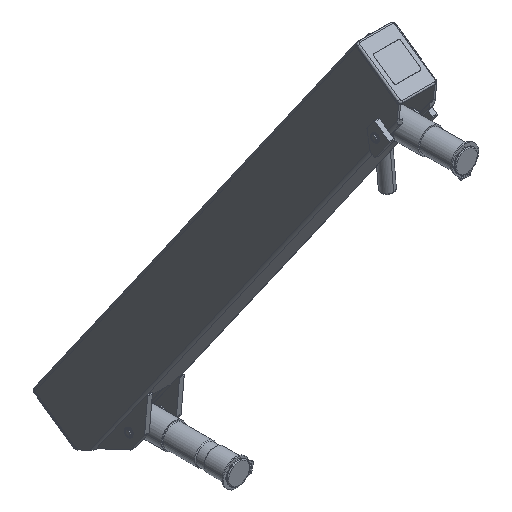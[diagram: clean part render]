
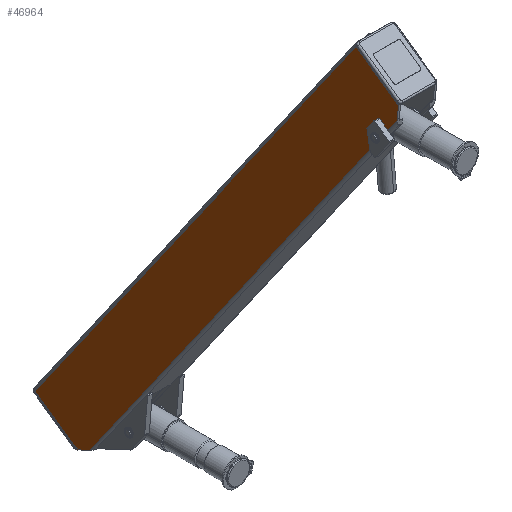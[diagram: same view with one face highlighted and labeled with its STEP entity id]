
A CAD part, isometric view. The second image highlights one B-rep face of the part: STEP entity #46964.
In plain terms, the highlighted planar face has unit normal (-1, 0, 0).
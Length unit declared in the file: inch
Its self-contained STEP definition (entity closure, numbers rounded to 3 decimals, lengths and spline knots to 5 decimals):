
#125 = CARTESIAN_POINT ( 'NONE',  ( 0., 0.375, 11. ) ) ;
#2625 = CARTESIAN_POINT ( 'NONE',  ( 0., -0.04803, 9.625 ) ) ;
#2826 = CARTESIAN_POINT ( 'NONE',  ( 0., 0.12058, 9.375 ) ) ;
#3907 = DIRECTION ( 'NONE',  ( 0., 0., 1. ) ) ;
#4354 = VECTOR ( 'NONE', #8692, 39.37008 ) ;
#4402 = ORIENTED_EDGE ( 'NONE', *, *, #18224, .T. ) ;
#4820 = ORIENTED_EDGE ( 'NONE', *, *, #28193, .F. ) ;
#6174 = CARTESIAN_POINT ( 'NONE',  ( 0., 2.4, -11. ) ) ;
#7248 = DIRECTION ( 'NONE',  ( 0., 0., -1. ) ) ;
#7549 = ORIENTED_EDGE ( 'NONE', *, *, #21960, .T. ) ;
#7694 = DIRECTION ( 'NONE',  ( 0., 1., 0. ) ) ;
#7761 = AXIS2_PLACEMENT_3D ( 'NONE', #21702, #50987, #34672 ) ;
#8537 = VERTEX_POINT ( 'NONE', #17712 ) ;
#8692 = DIRECTION ( 'NONE',  ( 0., 0., 1. ) ) ;
#8876 = EDGE_CURVE ( 'NONE', #31141, #10475, #12091, .T. ) ;
#8955 = DIRECTION ( 'NONE',  ( 0., 0.5, -0.866 ) ) ;
#9100 = VECTOR ( 'NONE', #7694, 39.37008 ) ;
#10275 = ORIENTED_EDGE ( 'NONE', *, *, #30648, .F. ) ;
#10475 = VERTEX_POINT ( 'NONE', #14802 ) ;
#11081 = VERTEX_POINT ( 'NONE', #27486 ) ;
#11120 = VERTEX_POINT ( 'NONE', #48383 ) ;
#11633 = DIRECTION ( 'NONE',  ( 0., 0., -1. ) ) ;
#11675 = VECTOR ( 'NONE', #48309, 39.37008 ) ;
#11833 = CARTESIAN_POINT ( 'NONE',  ( 0., 0.1, 9.625 ) ) ;
#12091 = CIRCLE ( 'NONE', #7761, 0.14063 ) ;
#14143 = CARTESIAN_POINT ( 'NONE',  ( 0., 0.375, 11. ) ) ;
#14802 = CARTESIAN_POINT ( 'NONE',  ( 0., 0.185, 9.64062 ) ) ;
#14868 = VERTEX_POINT ( 'NONE', #28542 ) ;
#16128 = DIRECTION ( 'NONE',  ( 0., -1., 0. ) ) ;
#16321 = CIRCLE ( 'NONE', #53560, 0.14063 ) ;
#16914 = ORIENTED_EDGE ( 'NONE', *, *, #8876, .T. ) ;
#17712 = CARTESIAN_POINT ( 'NONE',  ( 0., 0.375, -11. ) ) ;
#17910 = EDGE_CURVE ( 'NONE', #11081, #8537, #34639, .T. ) ;
#18067 = EDGE_CURVE ( 'NONE', #11081, #14868, #21001, .T. ) ;
#18135 = DIRECTION ( 'NONE',  ( 0., -1., 0. ) ) ;
#18224 = EDGE_CURVE ( 'NONE', #35045, #20876, #36998, .T. ) ;
#18486 = DIRECTION ( 'NONE',  ( 0., -0.5, -0.866 ) ) ;
#20355 = DIRECTION ( 'NONE',  ( 0., -1., 0. ) ) ;
#20876 = VERTEX_POINT ( 'NONE', #11833 ) ;
#21001 = LINE ( 'NONE', #40799, #21581 ) ;
#21581 = VECTOR ( 'NONE', #3907, 39.37008 ) ;
#21702 = CARTESIAN_POINT ( 'NONE',  ( 0., 0.185, 9.5 ) ) ;
#21960 = EDGE_CURVE ( 'NONE', #25013, #33476, #40505, .T. ) ;
#22555 = LINE ( 'NONE', #14143, #39864 ) ;
#22651 = EDGE_CURVE ( 'NONE', #10475, #35045, #45418, .T. ) ;
#22672 = DIRECTION ( 'NONE',  ( 0., -1., 0. ) ) ;
#23323 = VECTOR ( 'NONE', #16128, 39.37008 ) ;
#23788 = CARTESIAN_POINT ( 'NONE',  ( 0., 0.185, 9.5 ) ) ;
#24931 = ORIENTED_EDGE ( 'NONE', *, *, #42557, .F. ) ;
#25013 = VERTEX_POINT ( 'NONE', #31860 ) ;
#26755 = CARTESIAN_POINT ( 'NONE',  ( 0., 2.4, 11. ) ) ;
#27413 = LINE ( 'NONE', #45040, #11675 ) ;
#27486 = CARTESIAN_POINT ( 'NONE',  ( 0., 2.4, -11. ) ) ;
#27926 = CARTESIAN_POINT ( 'NONE',  ( 0., 2.4, -11. ) ) ;
#28193 = EDGE_CURVE ( 'NONE', #43025, #11120, #22555, .T. ) ;
#28542 = CARTESIAN_POINT ( 'NONE',  ( 0., 2.4, 11. ) ) ;
#28775 = EDGE_CURVE ( 'NONE', #20876, #11120, #37425, .T. ) ;
#28804 = CARTESIAN_POINT ( 'NONE',  ( 0., 0.12058, 9.625 ) ) ;
#29521 = ORIENTED_EDGE ( 'NONE', *, *, #17910, .T. ) ;
#29779 = ORIENTED_EDGE ( 'NONE', *, *, #22651, .T. ) ;
#29844 = AXIS2_PLACEMENT_3D ( 'NONE', #36313, #52870, #11633 ) ;
#30648 = EDGE_CURVE ( 'NONE', #39897, #8537, #45870, .T. ) ;
#31141 = VERTEX_POINT ( 'NONE', #40388 ) ;
#31739 = FACE_OUTER_BOUND ( 'NONE', #35427, .T. ) ;
#31860 = CARTESIAN_POINT ( 'NONE',  ( 0., 0.1, 9.375 ) ) ;
#32277 = ORIENTED_EDGE ( 'NONE', *, *, #38502, .T. ) ;
#32599 = AXIS2_PLACEMENT_3D ( 'NONE', #27926, #37146, #20355 ) ;
#32933 = EDGE_CURVE ( 'NONE', #33476, #31141, #16321, .T. ) ;
#33293 = VECTOR ( 'NONE', #22672, 39.37008 ) ;
#33362 = CARTESIAN_POINT ( 'NONE',  ( 0., 0.1, -11. ) ) ;
#33476 = VERTEX_POINT ( 'NONE', #2826 ) ;
#34639 = LINE ( 'NONE', #6174, #52001 ) ;
#34672 = DIRECTION ( 'NONE',  ( 0., 0., -1. ) ) ;
#35045 = VERTEX_POINT ( 'NONE', #28804 ) ;
#35427 = EDGE_LOOP ( 'NONE', ( #7549, #41663, #16914, #29779, #4402, #36557, #4820, #24931, #38726, #29521, #10275, #32277 ) ) ;
#36313 = CARTESIAN_POINT ( 'NONE',  ( 0., 0.185, 9.5 ) ) ;
#36557 = ORIENTED_EDGE ( 'NONE', *, *, #28775, .T. ) ;
#36593 = PLANE ( 'NONE',  #32599 ) ;
#36998 = LINE ( 'NONE', #2625, #23323 ) ;
#37146 = DIRECTION ( 'NONE',  ( -1., 0., 0. ) ) ;
#37425 = LINE ( 'NONE', #33362, #4354 ) ;
#38502 = EDGE_CURVE ( 'NONE', #39897, #25013, #27413, .T. ) ;
#38726 = ORIENTED_EDGE ( 'NONE', *, *, #18067, .F. ) ;
#39864 = VECTOR ( 'NONE', #18486, 39.37008 ) ;
#39897 = VERTEX_POINT ( 'NONE', #48100 ) ;
#40334 = DIRECTION ( 'NONE',  ( 1., 0., 0. ) ) ;
#40388 = CARTESIAN_POINT ( 'NONE',  ( 0., 0.185, 9.35937 ) ) ;
#40505 = LINE ( 'NONE', #45128, #9100 ) ;
#40799 = CARTESIAN_POINT ( 'NONE',  ( 0., 2.4, -11. ) ) ;
#41524 = CARTESIAN_POINT ( 'NONE',  ( 0., 0.375, -11. ) ) ;
#41663 = ORIENTED_EDGE ( 'NONE', *, *, #32933, .T. ) ;
#42557 = EDGE_CURVE ( 'NONE', #14868, #43025, #43563, .T. ) ;
#43025 = VERTEX_POINT ( 'NONE', #125 ) ;
#43563 = LINE ( 'NONE', #26755, #33293 ) ;
#45040 = CARTESIAN_POINT ( 'NONE',  ( 0., 0.1, -11. ) ) ;
#45128 = CARTESIAN_POINT ( 'NONE',  ( 0., -0.04803, 9.375 ) ) ;
#45418 = CIRCLE ( 'NONE', #29844, 0.14063 ) ;
#45870 = LINE ( 'NONE', #41524, #48278 ) ;
#46964 = ADVANCED_FACE ( 'NONE', ( #31739 ), #36593, .T. ) ;
#48100 = CARTESIAN_POINT ( 'NONE',  ( 0., 0.1, -10.52369 ) ) ;
#48278 = VECTOR ( 'NONE', #8955, 39.37008 ) ;
#48309 = DIRECTION ( 'NONE',  ( 0., 0., 1. ) ) ;
#48383 = CARTESIAN_POINT ( 'NONE',  ( 0., 0.1, 10.52369 ) ) ;
#50987 = DIRECTION ( 'NONE',  ( 1., 0., 0. ) ) ;
#52001 = VECTOR ( 'NONE', #18135, 39.37008 ) ;
#52870 = DIRECTION ( 'NONE',  ( 1., 0., 0. ) ) ;
#53560 = AXIS2_PLACEMENT_3D ( 'NONE', #23788, #40334, #7248 ) ;
